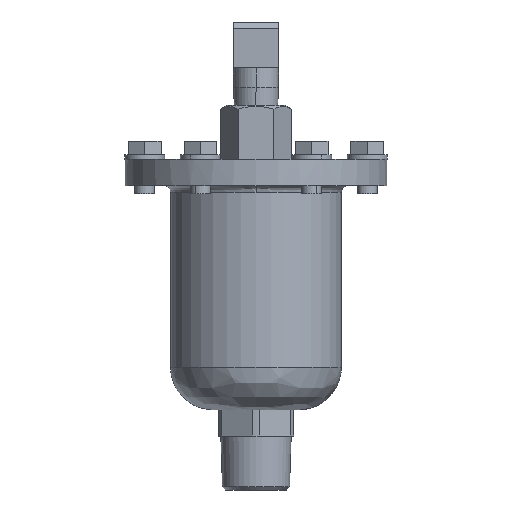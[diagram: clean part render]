
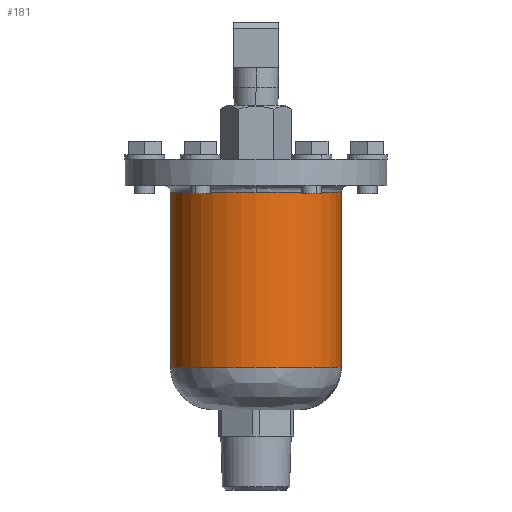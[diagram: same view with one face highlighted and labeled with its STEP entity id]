
A CAD part, left-side view. The second image highlights one B-rep face of the part: STEP entity #181.
In plain terms, the highlighted cylindrical face has radius 26.1 mm (diameter 52.2 mm), a partial arc.
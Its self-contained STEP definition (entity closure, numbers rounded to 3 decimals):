
#181=ADVANCED_FACE('',(#1313),#1312,.T.);
#1312=CYLINDRICAL_SURFACE('',#2339,26.1);
#1313=FACE_OUTER_BOUND('',#2340,.T.);
#2336=CARTESIAN_POINT('',(0.,39.75,0.));
#2337=DIRECTION('',(0.,-1.,0.));
#2338=DIRECTION('',(0.,0.,-1.));
#2339=AXIS2_PLACEMENT_3D('',#2336,#2337,#2338);
#2340=EDGE_LOOP('',(#3255,#3256,#3257,#3258,#3259));
#3255=ORIENTED_EDGE('',*,*,#3782,.F.);
#3256=ORIENTED_EDGE('',*,*,#3783,.F.);
#3257=ORIENTED_EDGE('',*,*,#3778,.T.);
#3258=ORIENTED_EDGE('',*,*,#3784,.T.);
#3259=ORIENTED_EDGE('',*,*,#3781,.F.);
#3778=EDGE_CURVE('',#5880,#5873,#5881,.T.);
#3781=EDGE_CURVE('',#5894,#5872,#5901,.T.);
#3782=EDGE_CURVE('',#5907,#5894,#5908,.T.);
#3783=EDGE_CURVE('',#5880,#5907,#5914,.T.);
#3784=EDGE_CURVE('',#5873,#5872,#5920,.T.);
#5872=VERTEX_POINT('',#7540);
#5873=VERTEX_POINT('',#7541);
#5880=VERTEX_POINT('',#7546);
#5881=(BOUNDED_CURVE() B_SPLINE_CURVE(1,(#7547,#7548),.UNSPECIFIED.,.F.,.F.) B_SPLINE_CURVE_WITH_KNOTS((2,2),(0.083,0.917),.UNSPECIFIED.) CURVE() GEOMETRIC_REPRESENTATION_ITEM() RATIONAL_B_SPLINE_CURVE((1.,1.)) REPRESENTATION_ITEM('') );
#5894=VERTEX_POINT('',#7554);
#5901=(BOUNDED_CURVE() B_SPLINE_CURVE(1,(#7559,#7560),.UNSPECIFIED.,.F.,.F.) B_SPLINE_CURVE_WITH_KNOTS((2,2),(0.083,0.917),.UNSPECIFIED.) CURVE() GEOMETRIC_REPRESENTATION_ITEM() RATIONAL_B_SPLINE_CURVE((0.75,0.75)) REPRESENTATION_ITEM('') );
#5907=VERTEX_POINT('',#7561);
#5908=CIRCLE('',#7565,26.1);
#5914=CIRCLE('',#7569,26.1);
#5920=CIRCLE('',#7573,26.1);
#7540=CARTESIAN_POINT('',(0.,13.,26.1));
#7541=CARTESIAN_POINT('',(0.,13.,-26.1));
#7546=CARTESIAN_POINT('',(0.,66.5,-26.1));
#7547=CARTESIAN_POINT('',(0.,66.5,-26.1));
#7548=CARTESIAN_POINT('',(0.,13.,-26.1));
#7554=CARTESIAN_POINT('',(0.,66.5,26.1));
#7559=CARTESIAN_POINT('',(0.,66.5,26.1));
#7560=CARTESIAN_POINT('',(0.,13.,26.1));
#7561=CARTESIAN_POINT('',(-26.1,66.5,0.));
#7562=CARTESIAN_POINT('',(0.,66.5,0.));
#7563=DIRECTION('',(0.,1.,0.));
#7564=DIRECTION('',(0.,0.,1.));
#7565=AXIS2_PLACEMENT_3D('',#7562,#7563,#7564);
#7566=CARTESIAN_POINT('',(0.,66.5,0.));
#7567=DIRECTION('',(0.,1.,0.));
#7568=DIRECTION('',(0.,0.,1.));
#7569=AXIS2_PLACEMENT_3D('',#7566,#7567,#7568);
#7570=CARTESIAN_POINT('',(0.,13.,0.));
#7571=DIRECTION('',(0.,1.,0.));
#7572=DIRECTION('',(0.,0.,-1.));
#7573=AXIS2_PLACEMENT_3D('',#7570,#7571,#7572);
